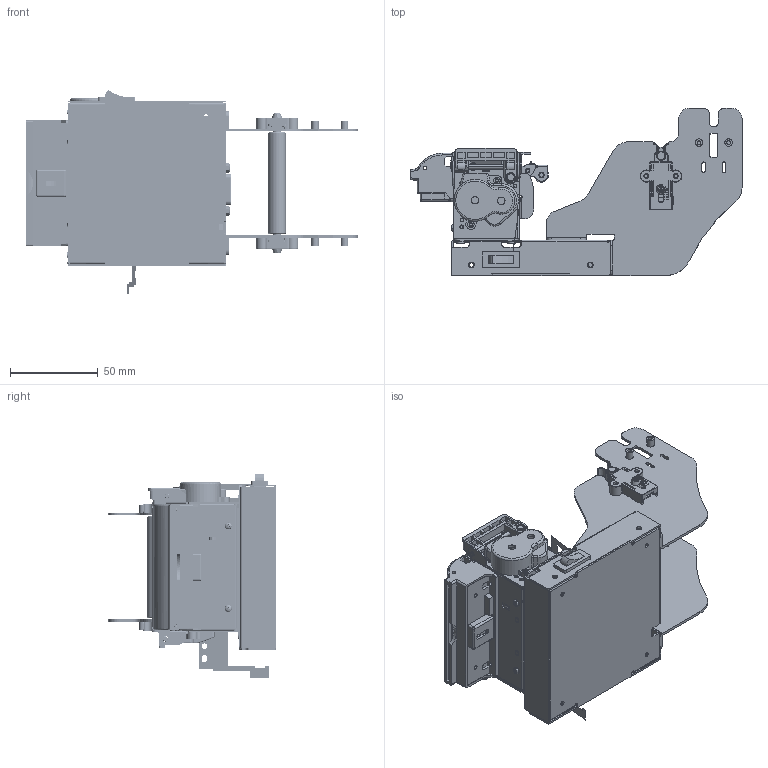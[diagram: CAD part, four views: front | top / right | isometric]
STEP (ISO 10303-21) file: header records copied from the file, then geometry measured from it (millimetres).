
FILE_DESCRIPTION((''),'2;1');
FILE_NAME('ASM0001_ASM-0-1','2020-06-18T',('jiegou'),(''),'PRO/ENGINEER BY PARAMETRIC TECHNOLOGY CORPORATION, 2013430','PRO/ENGINEER BY PARAMETRIC TECHNOLOGY CORPORATION, 2013430','');
FILE_SCHEMA(('AUTOMOTIVE_DESIGN_CC2 { 1 2 10303 214 -1 1 5 2 }'));
Products named in the file (1): ASM0001_ASM-0-1
Bounding box: 188.7 x 95 x 115.9 mm (x, y, z)
Volume: 22082.6 mm3; surface area: 199078.6 mm2
Topology: 15 solids, 43 shells, 4254 faces, 12258 edges, 8097 vertices
Faces by surface type: plane 2359, cylinder 1613, cone 97, bspline 80, torus 80, sphere 14, extrusion 11
Entity records: 196498 total; most frequent: CARTESIAN_POINT 37676, ORIENTED_EDGE 23763, DIRECTION 23695, EDGE_CURVE 12238, PRESENTATION_STYLE_ASSIGNMENT 11717, STYLED_ITEM 9763, CURVE_STYLE 9323, VERTEX_POINT 8097
